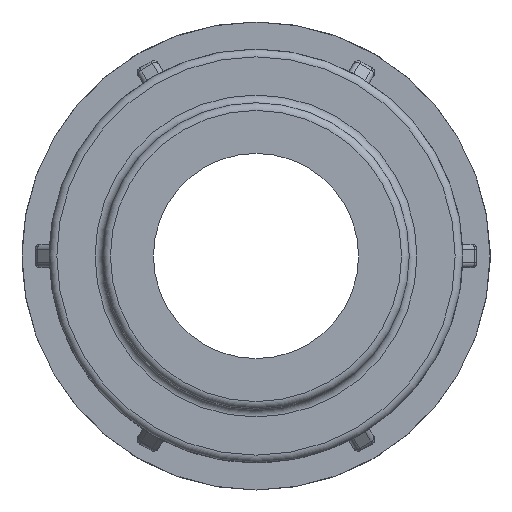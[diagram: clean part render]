
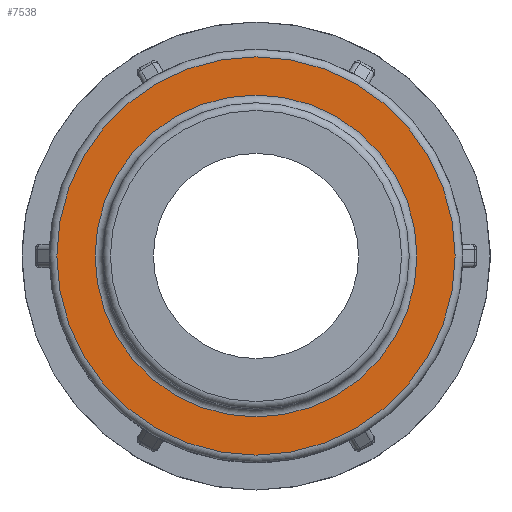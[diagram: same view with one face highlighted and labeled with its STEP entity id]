
A CAD part, left-side view. The second image highlights one B-rep face of the part: STEP entity #7538.
In plain terms, the highlighted planar face has unit normal (-1, 0, 0).
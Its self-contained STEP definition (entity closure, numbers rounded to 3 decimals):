
#22=FACE_BOUND('',#1410,.T.);
#284=PLANE('',#8452);
#933=FACE_OUTER_BOUND('',#1409,.T.);
#1409=EDGE_LOOP('',(#6791));
#1410=EDGE_LOOP('',(#6792));
#2832=CIRCLE('',#8451,25.102);
#2833=CIRCLE('',#8453,31.067);
#3517=VERTEX_POINT('',#14538);
#3518=VERTEX_POINT('',#14541);
#4634=EDGE_CURVE('',#3517,#3517,#2832,.T.);
#4635=EDGE_CURVE('',#3518,#3518,#2833,.T.);
#6791=ORIENTED_EDGE('',*,*,#4635,.F.);
#6792=ORIENTED_EDGE('',*,*,#4634,.F.);
#7538=ADVANCED_FACE('',(#933,#22),#284,.T.);
#8451=AXIS2_PLACEMENT_3D('',#14539,#10722,#10723);
#8452=AXIS2_PLACEMENT_3D('',#14540,#10724,#10725);
#8453=AXIS2_PLACEMENT_3D('',#14542,#10726,#10727);
#10722=DIRECTION('center_axis',(-1.,0.,0.));
#10723=DIRECTION('ref_axis',(0.,-1.,0.));
#10724=DIRECTION('center_axis',(-1.,0.,0.));
#10725=DIRECTION('ref_axis',(0.,0.,1.));
#10726=DIRECTION('center_axis',(1.,0.,0.));
#10727=DIRECTION('ref_axis',(0.,-1.,0.));
#14538=CARTESIAN_POINT('',(-3.3,25.102,0.));
#14539=CARTESIAN_POINT('Origin',(-3.3,0.,0.));
#14540=CARTESIAN_POINT('Origin',(-3.3,32.267,0.));
#14541=CARTESIAN_POINT('',(-3.3,31.067,0.));
#14542=CARTESIAN_POINT('Origin',(-3.3,0.,0.));
